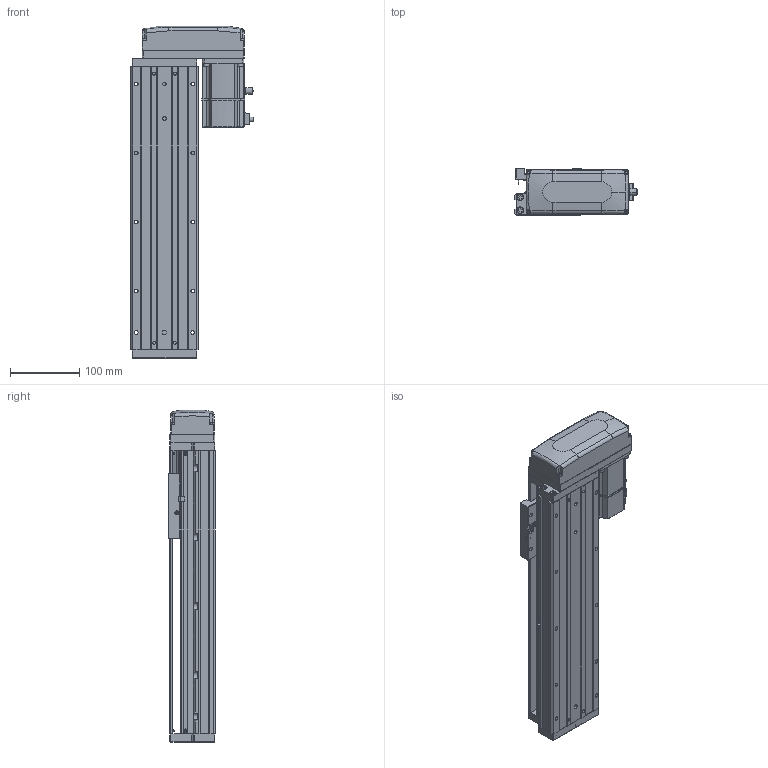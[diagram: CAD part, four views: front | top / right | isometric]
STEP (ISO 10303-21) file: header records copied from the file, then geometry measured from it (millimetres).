
FILE_DESCRIPTION (( 'STEP AP203' ), '1' );
FILE_NAME ('KTHA100-250-BL-M20-C4L.step', '2022-04-26T01:48:08', ( '微软用户' ), ( '微软中国' ), 'SwSTEP 2.0', 'SolidWorks 2020', '' );
FILE_SCHEMA (( 'CONFIG_CONTROL_DESIGN' ));
Length unit declared in the file: millimetre
Products named in the file (17): GBT77-2000 M3×3; _X2_4E0983F1_X0_200W_1; KTHA100-004; GBT 70.1-M3℅6; CTHA86-015-1_CTHA86-015-2; KTHA100-005; GBT70.1 M5℅16; CTHA86-033; GB¨uT 70.2-M3¡Á5_M3¡Á6; CTHA60-016; KTHA100-250-BL-M20-C4L; EE_SX911P_R; GBT 70.3-M3℅6; CTHA60-017; KTHA100-001_410; CTHA60-021; KTHA100-002
Assembly tree (57 placements, depth 2):
  KTHA100-250-BL-M20-C4L
    KTHA100-001_410
    KTHA100-002
    KTHA100-004
    KTHA100-005
    GB¨uT 70.2-M3¡Á5_M3¡Á6  x6
    EE_SX911P_R  x3
    CTHA60-017  x3
    CTHA60-021  x2
    GBT77-2000 M3×3  x6
    GBT 70.1-M3℅6  x10
    GBT70.1 M5℅16  x14
    CTHA60-016  x2
    GBT 70.3-M3℅6  x4
    _X2_4E0983F1_X0_200W_1
    CTHA86-015-1_CTHA86-015-2
    CTHA86-033
Bounding box: 177.7 x 68 x 481 mm (x, y, z)
Volume: 2446258.4 mm3; surface area: 408102.5 mm2
Topology: 60 solids, 60 shells, 2377 faces, 5665 edges, 3508 vertices
Faces by surface type: plane 1208, cylinder 659, cone 303, torus 116, bspline 75, sphere 16
Entity records: 40010 total; most frequent: CARTESIAN_POINT 8112, DIRECTION 6162, ORIENTED_EDGE 5942, EDGE_CURVE 2971, AXIS2_PLACEMENT_3D 2166, VERTEX_POINT 1868, VECTOR 1830, LINE 1830
